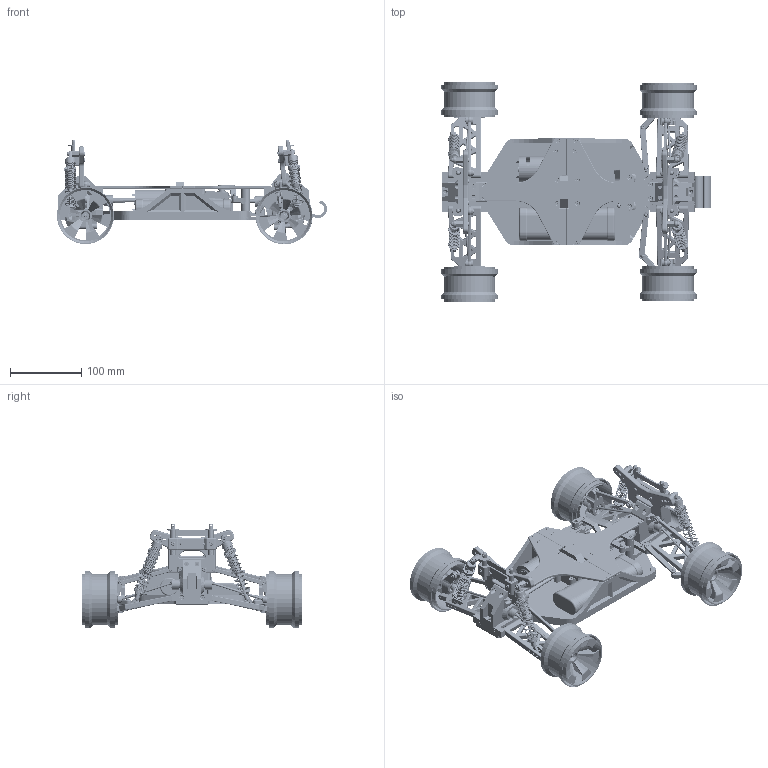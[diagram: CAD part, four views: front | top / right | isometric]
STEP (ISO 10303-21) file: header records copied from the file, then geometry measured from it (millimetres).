
FILE_DESCRIPTION(('STEP AP214'),'1');
FILE_NAME('C:/Users/dn/Open RC/OpenRC Truggy V1/OpenRC Truggy Assy.B.2.stp','2013-04-07T19:00:59',(' '),(' '),'Spatial InterOp 3D',' ',' ');
FILE_SCHEMA(('automotive_design'));
Length unit declared in the file: millimetre
Products named in the file (154): OpenRC Truggy Assy; Left Shield; Right Shield; Servo Arm; Battery; Top Deck Front; Top Deck Rear; Rim; Steering Pin; Hexagon Socket Countersunk Head Screw ISO 10642 - M3 × 10; Hexagon Socket Countersunk Head Screw ISO 10642 - M3 × 8; Hexagon Socket Pan Head Cap Screw ISO 7380 - M3 × 10; Bumper; Hexagon Nut ISO 4032 - M4; Chassie Plate; Chassie Plate Rear; Chassie Plate Front; Front Assembly; Wishbone Pin Holder; Hexagon Socket Countersunk Head Screw ISO 10642 - M3 × 12; Wishbone Pin; Shock Tower Front; Shock Spacer; Hexagon Socket Pan Head Cap Screw ISO 7380 - M3 × 8; Turnbuckle Spacer; Wishbone  Front; Hexagon Nut ISO 4032 - M3; Turnbuckle Front; Hexagon Socket Pan Head Cap Screw ISO 7380 - M3 × 12; Body holder base; Body Holder; Hexagon Socket Pan Head Cap Screw ISO 7380 - M3 × 6; Pin 2x10; Wheel Spacer; Differential Housing Assy; Front Rear Diff Assy; Bearing 10x15x4; Bevel-Gear-Part1_E1016S40_Mekanex_E1016S40_Mekanex; Central Drive Shaft Joint; Differential Assy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
Assembly tree (289 placements, depth 6):
  OpenRC Truggy Assy
    Left Shield
    Right Shield
    Servo Arm
    Battery
    Top Deck Front
    Top Deck Rear
    Rim  x4
    Steering Pin  x2
    Hexagon Socket Countersunk Head Screw ISO 10642 - M3 × 10  x6
    Hexagon Socket Countersunk Head Screw ISO 10642 - M3 × 8  x35
    Hexagon Socket Pan Head Cap Screw ISO 7380 - M3 × 10  x4
    Bumper
    Hexagon Nut ISO 4032 - M4  x4
    Chassie Plate
      Chassie Plate Rear
      Chassie Plate Front
    Front Assembly
      Wishbone Pin Holder
      Hexagon Socket Countersunk Head Screw ISO 10642 - M3 × 12  x2
      Wishbone Pin  x2
      Shock Tower Front
      Shock Spacer  x2
      Hexagon Socket Pan Head Cap Screw ISO 7380 - M3 × 8  x4
      Turnbuckle Spacer  x2
      Wishbone  Front  x2
      Hexagon Nut ISO 4032 - M3  x4
      Turnbuckle Front  x2
      Hexagon Socket Pan Head Cap Screw ISO 7380 - M3 × 12  x4
      Hexagon Socket Pan Head Cap Screw ISO 7380 - M3 × 10  x2
      Body holder base
      Body Holder
      Hexagon Socket Pan Head Cap Screw ISO 7380 - M3 × 6  x2
      Pin 2x10  x2
      Wheel Spacer  x2
      Differential Housing Assy
        Front Rear Diff Assy
        Front Rear Diff Assy
        Bearing 10x15x4  x2
        Bevel-Gear-Part1_E1016S40_Mekanex_E1016S40_Mekanex
        Hexagon Socket Pan Head Cap Screw ISO 7380 - M3 × 12
        Central Drive Shaft Joint
        Hexagon Nut ISO 4032 - M3  x9
        Hexagon Socket Pan Head Cap Screw ISO 7380 - M3 × 8  x2
        Differential Assy
          Diff Case.Shape 2
          Axle Shaft  x2
          Bearing 10x15x4  x2
          Hexagon Socket Countersunk Head Screw ISO 10642 - M3 × 12  x2
          Hexagon Socket Countersunk Head Screw ISO 10642 - M3 × 8  x2
          Axle Shaft Cover  x2
          Drive Gear
            Bevel-Gear-Part2_E1016S40_Mekanex_E1016S40_Mekanex
          Diff Gears Assy
            Bevel-Gear-Part1_A1016M16-1_Mekanex_A1016M16-1_Mekanex  x2
            Bevel-Gear-Part2_A1016M16-1_Mekanex_A1016M16-1_Mekanex  x2
            Differential Shaft
      Truggy 100mm Shocks  x2
        Oil Container
        Cap
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Bounding box: 378.75 x 309.08 x 146.79 mm (x, y, z)
Volume: 1062238.1 mm3; surface area: 725842 mm2
Topology: 341 solids, 349 shells, 13957 faces, 36699 edges, 23309 vertices
Faces by surface type: plane 4533, cylinder 4008, cone 2028, bspline 1562, torus 1044, sphere 612, extrusion 170
Full cylindrical faces by diameter (mm): 6.023 x4
Entity records: 248144 total; most frequent: CARTESIAN_POINT 86200, ORIENTED_EDGE 25254, DIRECTION 25154, EDGE_CURVE 12627, AXIS2_PLACEMENT_3D 9684, VERTEX_POINT 8109, VECTOR 5786, LINE 5616
